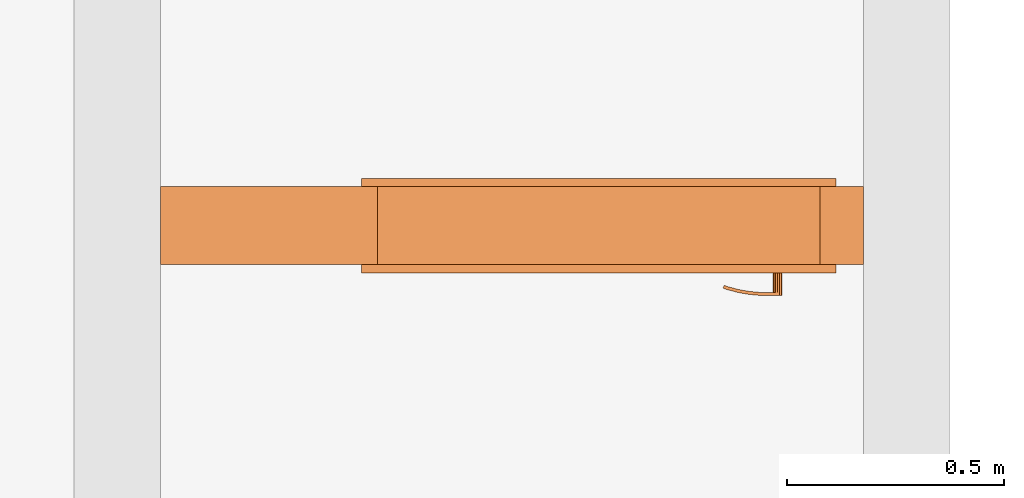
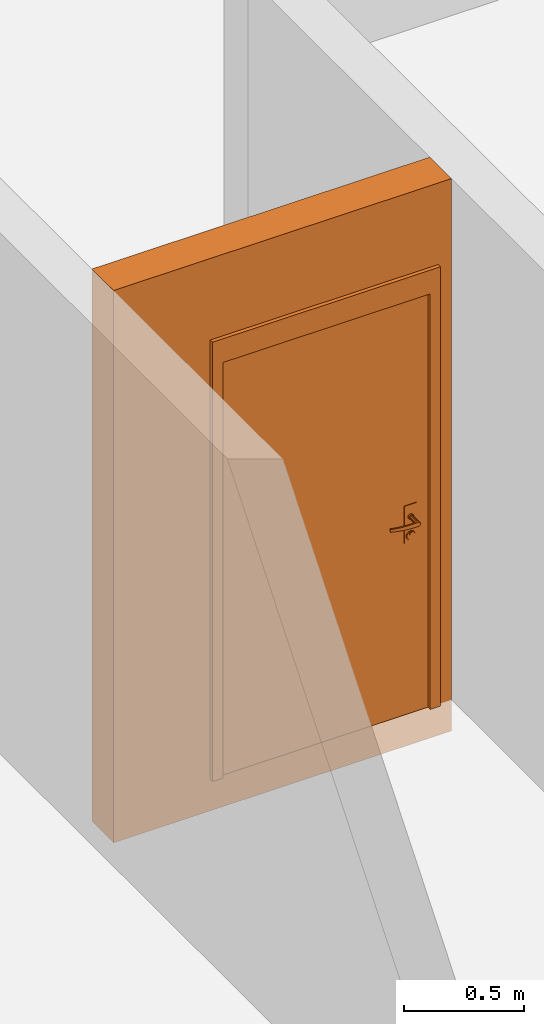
# One storey, part 22 of 67: 2 proxies, 1 opening.
"""IFC2X3 building model written with IfcOpenShell, lengths in millimetres."""

from ifc_helpers import new_model, entity, si_unit, converted_unit, derived_unit, money_unit, direction, frame, origin_with_axes, origin_2d_with_axis, place, context, subcontext, project, spatial, rectangle, extrude, open_shell, faceted_brep, surface_model, source, transform, mapped, material, type_object, element, fill, save


model = new_model("IFC2X3")

# Units and contexts
model_context = context("Model", 3, precision=0.01, world=origin_with_axes(), true_north=direction((0.34421633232, 0.938890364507)))
body_context = subcontext(model_context, "Body", "Model", "MODEL_VIEW")
ifc_project = project(units=[si_unit("LENGTHUNIT", "METRE", prefix="MILLI"), si_unit("AREAUNIT", "SQUARE_METRE"), si_unit("VOLUMEUNIT", "CUBIC_METRE"), converted_unit("PLANEANGLEUNIT", "DEGREE", entity("IfcPlaneAngleMeasure", 0.0174532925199), si_unit("PLANEANGLEUNIT", "RADIAN"), dimensions=[0, 0, 0, 0, 0, 0, 0]), si_unit("SOLIDANGLEUNIT", "STERADIAN"), money_unit("USD"), converted_unit("TIMEUNIT", "Year", entity("IfcTimeMeasure", 31556926.0), si_unit("TIMEUNIT", "SECOND"), dimensions=[0, 0, 1, 0, 0, 0, 0]), si_unit("MASSUNIT", "GRAM", prefix="KILO"), si_unit("THERMODYNAMICTEMPERATUREUNIT", "DEGREE_CELSIUS"), si_unit("LUMINOUSINTENSITYUNIT", "LUMEN"), si_unit("ENERGYUNIT", "JOULE", prefix="MEGA"), derived_unit("THERMALCONDUCTANCEUNIT", [(si_unit("POWERUNIT", "WATT"), 1), (si_unit("LENGTHUNIT", "METRE"), -1), (si_unit("THERMODYNAMICTEMPERATUREUNIT", "KELVIN"), -1)]), derived_unit("SPECIFICHEATCAPACITYUNIT", [(si_unit("ENERGYUNIT", "JOULE"), 1), (si_unit("MASSUNIT", "GRAM", prefix="KILO"), -1), (si_unit("THERMODYNAMICTEMPERATUREUNIT", "KELVIN"), -1)]), derived_unit("MASSDENSITYUNIT", [(si_unit("MASSUNIT", "GRAM", prefix="KILO"), 1), (si_unit("VOLUMEUNIT", "CUBIC_METRE"), -1)])], contexts=[model_context])

# Site, building, storey
site_placement = place(None, origin_with_axes())
site = spatial("IfcSite", under=ifc_project, at=site_placement, Name="USTRONIE MORSKIE", CompositionType="ELEMENT")
building_placement = place(site_placement, origin_with_axes())
building = spatial("IfcBuilding", under=site, at=building_placement, Name="Budynek", CompositionType="ELEMENT")
storey_placement = place(building_placement, frame((0.0, 0.0, 4000.0), z_axis=(0.0, 0.0, 1.0), x_axis=(1.0, 0.0, 0.0)))
storey = spatial("IfcBuildingStorey", under=building, at=storey_placement, Name="PIĘTRO 1", CompositionType="ELEMENT", Elevation=4000.0)

# Proxies, opening
ifc_material = material(Name="Bloczki silikatowe")
building_element_proxy_type_1 = type_object("IfcBuildingElementProxyType", Name="Bloczki silikatowe 180", PredefinedType="NOTDEFINED")
proxy_1_placement = place(storey_placement, frame((381137.920919, 731101.199132, -160.0), z_axis=(0.0, 0.0, 1.0), x_axis=(-1.0, 0.0, 0.0)))
proxy_1 = element("IfcBuildingElementProxy", 1, at=proxy_1_placement, inside=storey, type_object=building_element_proxy_type_1, material=ifc_material, Name="SW-02", context=body_context, shape_type="Brep", body=[
    faceted_brep([(1720.0, -90.0, 2800.0), (1720.0, 90.0, 2800.0), (100.0, 90.0, 2800.0), (100.0, -90.0, 2800.0), (1720.0, -90.0, 0.0), (1720.0, 90.0, 0.0), (100.0, 90.0, 0.0), (100.0, -90.0, 0.0)], [[[0, 1, 2, 3]], [[1, 0, 4, 5]], [[1, 5, 6, 2]], [[7, 3, 2, 6]], [[4, 0, 3, 7]], [[5, 4, 7, 6]]]),
])
opening_placement = place(proxy_1_placement, frame((710.0, 0.0, 160.0), z_axis=(0.0, 0.0, 1.0), x_axis=(1.0, 0.0, 0.0)))
opening = element("IfcOpeningElement", 2, at=opening_placement, cuts=proxy_1, Name="Dw.1", context=body_context, shape_type="SweptSolid", body=[
    extrude(rectangle(XDim=1020.0, YDim=2120.0, at=origin_2d_with_axis()), frame((0.0, -180.0, 1060.0), z_axis=(0.0, 1.0, 0.0), x_axis=(1.0, 0.0, 0.0)), (0.0, 0.0, 1.0), 540.0),
    extrude(rectangle(XDim=1094.0, YDim=2227.0, at=origin_2d_with_axis()), frame((0.0, -90.0, 1113.5), z_axis=(0.0, 1.0, 0.0), x_axis=(1.0, 0.0, 0.0)), (0.0, 0.0, -1.0), 180.0),
    extrude(rectangle(XDim=1094.0, YDim=2227.0, at=origin_2d_with_axis()), frame((0.0, 89.9999999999, 1113.5), z_axis=(0.0, -1.0, 0.0), x_axis=(1.0, 0.0, 0.0)), (0.0, 0.0, -1.0), 180.0),
])
building_element_proxy_type_2 = type_object("IfcBuildingElementProxyType", Name="Drzwi 23", PredefinedType="NOTDEFINED")
shared_shape = source(origin_with_axes(), body_context, "Body", "SurfaceModel", [
    faceted_brep([(-510.0, -115.0, 0.0), (-485.0, -115.0, 0.0), (-485.0, -180.0, 0.0), (-510.0, -180.0, 0.0), (-510.0, -115.0, 2120.0), (-485.0, -115.0, 2095.0), (-485.0, -180.0, 2095.0), (-510.0, -180.0, 2120.0)], [[[0, 1, 2, 3]], [[0, 4, 5, 1]], [[1, 5, 6, 2]], [[3, 2, 6, 7]], [[4, 0, 3, 7]], [[5, 4, 7, 6]]]),
    faceted_brep([(510.0, -115.0, 2120.0), (485.0, -115.0, 2095.0), (485.0, -180.0, 2095.0), (510.0, -180.0, 2120.0), (510.0, -115.0, 0.0), (485.0, -115.0, 0.0), (485.0, -180.0, 0.0), (510.0, -180.0, 0.0)], [[[0, 1, 2, 3]], [[0, 4, 5, 1]], [[1, 5, 6, 2]], [[3, 2, 6, 7]], [[4, 0, 3, 7]], [[5, 4, 7, 6]]]),
    faceted_brep([(-485.0, -115.0, 2095.0), (485.0, -115.0, 2095.0), (485.0, -180.0, 2095.0), (-485.0, -180.0, 2095.0), (-510.0, -115.0, 2120.0), (510.0, -115.0, 2120.0), (510.0, -180.0, 2120.0), (-510.0, -180.0, 2120.0)], [[[0, 1, 2, 3]], [[0, 4, 5, 1]], [[1, 5, 6, 2]], [[3, 2, 6, 7]], [[4, 0, 3, 7]], [[5, 4, 7, 6]]]),
    faceted_brep([(-547.0, -199.0, 0.0), (-547.0, -180.0, 0.0), (-497.0, -180.0, 0.0), (-497.0, -199.0, 0.0), (-547.0, -199.0, 2227.0), (-547.0, -180.0, 2227.0), (-497.0, -180.0, 2107.0), (-497.0, -199.0, 2107.0)], [[[0, 1, 2, 3]], [[4, 5, 1, 0]], [[1, 5, 6, 2]], [[3, 2, 6, 7]], [[0, 3, 7, 4]], [[7, 6, 5, 4]]]),
    faceted_brep([(547.0, -199.0, 2227.0), (547.0, -180.0, 2227.0), (497.0, -180.0, 2107.0), (497.0, -199.0, 2107.0), (547.0, -199.0, 0.0), (547.0, -180.0, 0.0), (497.0, -180.0, 0.0), (497.0, -199.0, 0.0)], [[[0, 1, 2, 3]], [[4, 5, 1, 0]], [[1, 5, 6, 2]], [[3, 2, 6, 7]], [[0, 3, 7, 4]], [[7, 6, 5, 4]]]),
    faceted_brep([(-547.0, -199.0, 2227.0), (-547.0, -180.0, 2227.0), (-497.0, -180.0, 2107.0), (-497.0, -199.0, 2107.0), (547.0, -199.0, 2227.0), (547.0, -180.0, 2227.0), (497.0, -180.0, 2107.0), (497.0, -199.0, 2107.0)], [[[0, 1, 2, 3]], [[4, 5, 1, 0]], [[1, 5, 6, 2]], [[3, 2, 6, 7]], [[0, 3, 7, 4]], [[7, 6, 5, 4]]]),
    faceted_brep([(-547.0, 19.0, 0.0), (-497.0, 19.0, 0.0), (-497.0, 0.0, 0.0), (-547.0, 0.0, 0.0), (-547.0, 19.0, 2227.0), (-497.0, 19.0, 2107.0), (-497.0, 0.0, 2107.0), (-547.0, 0.0, 2227.0)], [[[0, 1, 2, 3]], [[0, 4, 5, 1]], [[1, 5, 6, 2]], [[3, 2, 6, 7]], [[4, 0, 3, 7]], [[5, 4, 7, 6]]]),
    faceted_brep([(547.0, 19.0, 2227.0), (497.0, 19.0, 2107.0), (497.0, 0.0, 2107.0), (547.0, 0.0, 2227.0), (547.0, 19.0, 0.0), (497.0, 19.0, 0.0), (497.0, 0.0, 0.0), (547.0, 0.0, 0.0)], [[[0, 1, 2, 3]], [[0, 4, 5, 1]], [[1, 5, 6, 2]], [[3, 2, 6, 7]], [[4, 0, 3, 7]], [[5, 4, 7, 6]]]),
    faceted_brep([(-547.0, 19.0, 2227.0), (-497.0, 19.0, 2107.0), (-497.0, 0.0, 2107.0), (-547.0, 0.0, 2227.0), (547.0, 19.0, 2227.0), (497.0, 19.0, 2107.0), (497.0, 0.0, 2107.0), (547.0, 0.0, 2227.0)], [[[0, 1, 2, 3]], [[0, 4, 5, 1]], [[1, 5, 6, 2]], [[3, 2, 6, 7]], [[4, 0, 3, 7]], [[5, 4, 7, 6]]]),
    faceted_brep([(-450.0, -40.0, 0.0), (-450.0, -40.0, 2050.0), (-450.0, -115.0, 2050.0), (-450.0, -115.0, 0.0), (-462.0, -40.0, 2050.0), (-462.0, -40.0, 0.0), (-462.0, 0.0, 2050.0), (-510.0, 0.0, 2050.0), (-510.0, -115.0, 2050.0), (-510.0, -115.0, 0.0), (-510.0, 0.0, 0.0), (-462.0, 0.0, 0.0)], [[[0, 1, 2, 3]], [[4, 1, 0, 5]], [[4, 6, 7, 8, 2, 1]], [[3, 2, 8, 9]], [[5, 0, 3, 9, 10, 11]], [[6, 4, 5, 11]], [[6, 11, 10, 7]], [[10, 9, 8, 7]]]),
    faceted_brep([(462.0, -40.0, 2050.0), (450.0, -40.0, 2050.0), (450.0, -115.0, 2050.0), (510.0, -115.0, 2050.0), (510.0, 0.0, 2050.0), (462.0, 0.0, 2050.0), (462.0, -40.0, 0.0), (450.0, -40.0, 0.0), (450.0, -115.0, 0.0), (510.0, -115.0, 0.0), (510.0, 0.0, 0.0), (462.0, 0.0, 0.0)], [[[0, 1, 2, 3, 4, 5]], [[1, 0, 6, 7]], [[1, 7, 8, 2]], [[3, 2, 8, 9]], [[4, 3, 9, 10]], [[11, 5, 4, 10]], [[0, 5, 11, 6]], [[6, 11, 10, 9, 8, 7]]]),
    faceted_brep([(-462.0, 0.0, 2062.0), (-462.0, 0.0, 2050.0), (-510.0, 0.0, 2050.0), (-510.0, 0.0, 2120.0), (510.0, 0.0, 2120.0), (510.0, 0.0, 2050.0), (462.0, 0.0, 2050.0), (462.0, 0.0, 2062.0), (-462.0, -40.0, 2062.0), (-462.0, -40.0, 2050.0), (-450.0, -40.0, 2050.0), (-450.0, -115.0, 2050.0), (-510.0, -115.0, 2050.0), (-510.0, -115.0, 2120.0), (510.0, -115.0, 2120.0), (510.0, -115.0, 2050.0), (462.0, -40.0, 2050.0), (450.0, -115.0, 2050.0), (450.0, -40.0, 2050.0), (462.0, -40.0, 2062.0)], [[[0, 1, 2, 3, 4, 5, 6, 7]], [[1, 0, 8, 9]], [[9, 10, 11, 12, 2, 1]], [[2, 12, 13, 3]], [[3, 13, 14, 4]], [[4, 14, 15, 5]], [[16, 6, 5, 15, 17, 18]], [[7, 6, 16, 19]], [[0, 7, 19, 8]], [[16, 18, 10, 9, 8, 19]], [[10, 18, 17, 11]], [[17, 15, 14, 13, 12, 11]]]),
    faceted_brep([(-440.5, -40.0, 1060.0), (-440.5, -43.0, 1060.0), (-383.5, -43.0, 1060.0), (-383.5, -40.0, 1060.0), (-440.5, -40.0, 870.0), (-440.5, -43.0, 870.0), (-383.5, -43.0, 870.0), (-383.5, -40.0, 870.0)], [[[0, 1, 2, 3]], [[4, 5, 1, 0]], [[1, 5, 6, 2]], [[3, 2, 6, 7]], [[0, 3, 7, 4]], [[7, 6, 5, 4]]]),
    faceted_brep([(-412.0, -104.0, 990.0), (-412.0, -111.0, 990.0), (-417.0, -111.0, 991.339745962), (-417.0, -104.0, 991.339745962), (-387.0, -104.0, 990.0), (-387.0, -111.0, 990.0), (-387.0, -111.0, 1010.0), (-412.0, -111.0, 1010.0), (-417.0, -111.0, 1008.66025404), (-420.660254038, -111.0, 1005.0), (-422.0, -111.0, 1000.0), (-420.660254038, -111.0, 995.0), (-420.660254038, -104.0, 995.0), (-422.0, -104.0, 1000.0), (-420.660254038, -104.0, 1005.0), (-417.0, -104.0, 1008.66025404), (-412.0, -104.0, 1010.0), (-387.0, -104.0, 1010.0)], [[[0, 1, 2, 3]], [[4, 5, 1, 0]], [[1, 5, 6, 7, 8, 9, 10, 11, 2]], [[3, 2, 11, 12]], [[0, 3, 12, 13, 14, 15, 16, 17, 4]], [[17, 6, 5, 4]], [[16, 7, 6, 17]], [[15, 8, 7, 16]], [[14, 9, 8, 15]], [[13, 10, 9, 14]], [[12, 11, 10, 13]]]),
    surface_model("IfcShellBasedSurfaceModel", [(-387.0, -104.0, 1010.0), (-373.596090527, -111.0, 1009.60730092), (-373.901717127, -104.0, 1009.60730092), (-387.0, -111.0, 1010.0), (-346.890283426, -108.663544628, 1008.82190275), (-373.901717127, -104.0, 990.392699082), (-387.0, -104.0, 990.0), (-387.0, -111.0, 990.0), (-373.596090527, -111.0, 990.392699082), (-346.890283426, -108.663544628, 991.178097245), (-347.804837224, -101.716818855, 1008.82190275), (-347.804837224, -101.716818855, 991.178097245), (-320.489735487, -104.008415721, 991.963495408), (-320.489735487, -104.008415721, 1008.03650459), (-322.006256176, -97.1678329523, 1008.03650459), (-322.006256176, -97.1678329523, 991.963495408), (-294.59537082, -97.0700416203, 992.748893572), (-294.59537082, -97.0700416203, 1007.25110643), (-296.702316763, -90.3876628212, 1007.25110643), (-296.702316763, -90.3876628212, 992.748893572), (-286.538795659, -94.1376880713, 993.0), (-286.538795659, -94.1376880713, 1007.0), (-288.829442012, -87.5221707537, 1007.0), (-288.829442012, -87.5221707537, 993.0)], [open_shell([[[0, 1, 2]], [[0, 3, 1]], [[2, 1, 4]], [[0, 2, 5, 6]], [[3, 7, 8, 1]], [[1, 8, 9, 4]], [[2, 4, 10]], [[2, 10, 11, 5]], [[5, 7, 6]], [[5, 8, 7]], [[11, 9, 8]], [[4, 9, 12, 13]], [[10, 4, 13]], [[10, 14, 15, 11]], [[11, 8, 5]], [[15, 9, 11]], [[15, 12, 9]], [[13, 12, 16, 17]], [[10, 13, 14]], [[14, 18, 19, 15]], [[19, 12, 15]], [[19, 16, 12]], [[17, 16, 20, 21]], [[14, 13, 17]], [[14, 17, 18]], [[18, 22, 23, 19]], [[23, 16, 19]], [[23, 20, 16]], [[22, 21, 20, 23]], [[18, 17, 21]], [[18, 21, 22]]])]),
    faceted_brep([(-401.607695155, -53.0, 994.0), (-400.741669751, -43.0, 993.5), (-399.0, -43.0, 1000.0), (-400.0, -53.0, 1000.0), (-406.0, -53.0, 989.607695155), (-405.5, -43.0, 988.741669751), (-412.0, -43.0, 987.0), (-418.5, -43.0, 988.741669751), (-423.258330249, -43.0, 993.5), (-425.0, -43.0, 1000.0), (-423.258330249, -43.0, 1006.5), (-418.5, -43.0, 1011.25833025), (-412.0, -43.0, 1013.0), (-405.5, -43.0, 1011.25833025), (-400.741669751, -43.0, 1006.5), (-401.607695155, -53.0, 1006.0), (-406.0, -53.0, 1010.39230485), (-412.0, -53.0, 1012.0), (-418.0, -53.0, 1010.39230485), (-422.392304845, -53.0, 1006.0), (-424.0, -53.0, 1000.0), (-422.392304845, -53.0, 994.0), (-418.0, -53.0, 989.607695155), (-412.0, -53.0, 988.0)], [[[0, 1, 2, 3]], [[4, 5, 1, 0]], [[2, 1, 5, 6, 7, 8, 9, 10, 11, 12, 13, 14]], [[3, 2, 14, 15]], [[3, 15, 16, 17, 18, 19, 20, 21, 22, 23, 4, 0]], [[23, 6, 5, 4]], [[22, 7, 6, 23]], [[21, 8, 7, 22]], [[20, 9, 8, 21]], [[19, 10, 9, 20]], [[18, 11, 10, 19]], [[17, 12, 11, 18]], [[16, 13, 12, 17]], [[15, 14, 13, 16]]]),
    faceted_brep([(-394.679491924, -47.0, 895.0), (-392.947441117, -43.0, 894.0), (-390.0, -43.0, 905.0), (-392.0, -47.0, 905.0), (-402.0, -47.0, 887.679491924), (-401.0, -43.0, 885.947441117), (-412.0, -43.0, 883.0), (-423.0, -43.0, 885.947441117), (-431.052558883, -43.0, 894.0), (-434.0, -43.0, 905.0), (-431.052558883, -43.0, 916.0), (-423.0, -43.0, 924.052558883), (-412.0, -43.0, 927.0), (-401.0, -43.0, 924.052558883), (-392.947441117, -43.0, 916.0), (-394.679491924, -47.0, 915.0), (-402.0, -47.0, 922.320508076), (-412.0, -47.0, 925.0), (-422.0, -47.0, 922.320508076), (-429.320508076, -47.0, 915.0), (-432.0, -47.0, 905.0), (-429.320508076, -47.0, 895.0), (-422.0, -47.0, 887.679491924), (-412.0, -47.0, 885.0)], [[[0, 1, 2, 3]], [[4, 5, 1, 0]], [[2, 1, 5, 6, 7, 8, 9, 10, 11, 12, 13, 14]], [[3, 2, 14, 15]], [[3, 15, 16, 17, 18, 19, 20, 21, 22, 23, 4, 0]], [[23, 6, 5, 4]], [[22, 7, 6, 23]], [[21, 8, 7, 22]], [[20, 9, 8, 21]], [[19, 10, 9, 20]], [[18, 11, 10, 19]], [[17, 12, 11, 18]], [[16, 13, 12, 17]], [[15, 14, 13, 16]]]),
    faceted_brep([(-407.050252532, -49.0, 909.050252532), (-406.343145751, -47.0, 908.343145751), (-404.0, -47.0, 914.0), (-405.0, -49.0, 914.0), (-412.0, -49.0, 907.0), (-412.0, -47.0, 906.0), (-417.656854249, -47.0, 908.343145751), (-420.0, -47.0, 914.0), (-417.656854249, -47.0, 919.656854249), (-412.0, -47.0, 922.0), (-406.343145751, -47.0, 919.656854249), (-407.050252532, -49.0, 918.949747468), (-412.0, -49.0, 921.0), (-416.949747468, -49.0, 918.949747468), (-419.0, -49.0, 914.0), (-416.949747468, -49.0, 909.050252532)], [[[0, 1, 2, 3]], [[4, 5, 1, 0]], [[2, 1, 5, 6, 7, 8, 9, 10]], [[3, 2, 10, 11]], [[3, 11, 12, 13, 14, 15, 4, 0]], [[15, 6, 5, 4]], [[14, 7, 6, 15]], [[13, 8, 7, 14]], [[12, 9, 8, 13]], [[11, 10, 9, 12]]]),
    faceted_brep([(-412.0, -53.0, 1010.0), (-412.0, -104.0, 1010.0), (-407.0, -104.0, 1008.66025404), (-407.0, -53.0, 1008.66025404), (-417.0, -53.0, 1008.66025404), (-417.0, -104.0, 1008.66025404), (-420.660254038, -104.0, 1005.0), (-422.0, -104.0, 1000.0), (-420.660254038, -104.0, 995.0), (-417.0, -104.0, 991.339745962), (-412.0, -104.0, 990.0), (-407.0, -104.0, 991.339745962), (-403.339745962, -104.0, 995.0), (-402.0, -104.0, 1000.0), (-403.339745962, -104.0, 1005.0), (-403.339745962, -53.0, 1005.0), (-402.0, -53.0, 1000.0), (-403.339745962, -53.0, 995.0), (-407.0, -53.0, 991.339745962), (-412.0, -53.0, 990.0), (-417.0, -53.0, 991.339745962), (-420.660254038, -53.0, 995.0), (-422.0, -53.0, 1000.0), (-420.660254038, -53.0, 1005.0)], [[[0, 1, 2, 3]], [[4, 5, 1, 0]], [[1, 5, 6, 7, 8, 9, 10, 11, 12, 13, 14, 2]], [[3, 2, 14, 15]], [[0, 3, 15, 16, 17, 18, 19, 20, 21, 22, 23, 4]], [[23, 6, 5, 4]], [[22, 7, 6, 23]], [[21, 8, 7, 22]], [[20, 9, 8, 21]], [[19, 10, 9, 20]], [[18, 11, 10, 19]], [[17, 12, 11, 18]], [[16, 13, 12, 17]], [[15, 14, 13, 16]]]),
    faceted_brep([(-440.5, 0.0, 1060.0), (-383.5, 0.0, 1060.0), (-383.5, 3.0, 1060.0), (-440.5, 3.0, 1060.0), (-440.5, 0.0, 870.0), (-383.5, 0.0, 870.0), (-383.5, 3.0, 870.0), (-440.5, 3.0, 870.0)], [[[0, 1, 2, 3]], [[0, 4, 5, 1]], [[1, 5, 6, 2]], [[3, 2, 6, 7]], [[4, 0, 3, 7]], [[5, 4, 7, 6]]]),
    faceted_brep([(-412.0, 64.0, 990.0), (-417.0, 64.0, 991.339745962), (-417.0, 71.0, 991.339745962), (-412.0, 71.0, 990.0), (-387.0, 64.0, 990.0), (-387.0, 64.0, 1010.0), (-412.0, 64.0, 1010.0), (-417.0, 64.0, 1008.66025404), (-420.660254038, 64.0, 1005.0), (-422.0, 64.0, 1000.0), (-420.660254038, 64.0, 995.0), (-420.660254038, 71.0, 995.0), (-422.0, 71.0, 1000.0), (-420.660254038, 71.0, 1005.0), (-417.0, 71.0, 1008.66025404), (-412.0, 71.0, 1010.0), (-387.0, 71.0, 1010.0), (-387.0, 71.0, 990.0)], [[[0, 1, 2, 3]], [[0, 4, 5, 6, 7, 8, 9, 10, 1]], [[1, 10, 11, 2]], [[3, 2, 11, 12, 13, 14, 15, 16, 17]], [[4, 0, 3, 17]], [[5, 4, 17, 16]], [[6, 5, 16, 15]], [[7, 6, 15, 14]], [[8, 7, 14, 13]], [[9, 8, 13, 12]], [[10, 9, 12, 11]]]),
    surface_model("IfcShellBasedSurfaceModel", [(-387.0, 64.0, 1010.0), (-373.901717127, 64.0, 1009.60730092), (-373.596090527, 71.0, 1009.60730092), (-387.0, 64.0, 990.0), (-373.901717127, 64.0, 990.392699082), (-346.890283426, 68.6635446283, 1008.82190275), (-387.0, 71.0, 1010.0), (-387.0, 71.0, 990.0), (-347.804837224, 61.716818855, 991.178097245), (-347.804837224, 61.716818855, 1008.82190275), (-346.890283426, 68.6635446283, 991.178097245), (-373.596090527, 71.0, 990.392699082), (-322.006256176, 57.1678329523, 991.963495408), (-322.006256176, 57.1678329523, 1008.03650459), (-320.489735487, 64.0084157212, 1008.03650459), (-320.489735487, 64.0084157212, 991.963495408), (-296.702316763, 50.3876628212, 992.748893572), (-296.702316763, 50.3876628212, 1007.25110643), (-294.59537082, 57.0700416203, 1007.25110643), (-294.59537082, 57.0700416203, 992.748893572), (-288.829442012, 47.5221707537, 993.0), (-288.829442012, 47.5221707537, 1007.0), (-286.538795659, 54.1376880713, 1007.0), (-286.538795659, 54.1376880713, 993.0)], [open_shell([[[0, 1, 2]], [[0, 3, 4, 1]], [[1, 5, 2]], [[0, 2, 6]], [[4, 3, 7]], [[1, 4, 8, 9]], [[1, 9, 5]], [[2, 5, 10, 11]], [[6, 2, 11, 7]], [[4, 7, 11]], [[8, 4, 11]], [[9, 8, 12, 13]], [[9, 14, 5]], [[5, 14, 15, 10]], [[8, 11, 10]], [[12, 8, 10]], [[13, 12, 16, 17]], [[9, 13, 14]], [[14, 18, 19, 15]], [[12, 10, 15]], [[16, 12, 15]], [[17, 16, 20, 21]], [[13, 17, 18]], [[13, 18, 14]], [[18, 22, 23, 19]], [[16, 15, 19]], [[20, 16, 19]], [[21, 20, 23, 22]], [[17, 21, 22]], [[17, 22, 18]], [[20, 19, 23]]])]),
    faceted_brep([(-401.607695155, 13.0, 994.0), (-400.0, 13.0, 1000.0), (-399.0, 3.0, 1000.0), (-400.741669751, 3.0, 993.5), (-406.0, 13.0, 989.607695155), (-412.0, 13.0, 988.0), (-418.0, 13.0, 989.607695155), (-422.392304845, 13.0, 994.0), (-424.0, 13.0, 1000.0), (-422.392304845, 13.0, 1006.0), (-418.0, 13.0, 1010.39230485), (-412.0, 13.0, 1012.0), (-406.0, 13.0, 1010.39230485), (-401.607695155, 13.0, 1006.0), (-400.741669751, 3.0, 1006.5), (-405.5, 3.0, 1011.25833025), (-412.0, 3.0, 1013.0), (-418.5, 3.0, 1011.25833025), (-423.258330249, 3.0, 1006.5), (-425.0, 3.0, 1000.0), (-423.258330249, 3.0, 993.5), (-418.5, 3.0, 988.741669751), (-412.0, 3.0, 987.0), (-405.5, 3.0, 988.741669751)], [[[0, 1, 2, 3]], [[1, 0, 4, 5, 6, 7, 8, 9, 10, 11, 12, 13]], [[1, 13, 14, 2]], [[2, 14, 15, 16, 17, 18, 19, 20, 21, 22, 23, 3]], [[4, 0, 3, 23]], [[5, 4, 23, 22]], [[6, 5, 22, 21]], [[7, 6, 21, 20]], [[8, 7, 20, 19]], [[9, 8, 19, 18]], [[10, 9, 18, 17]], [[11, 10, 17, 16]], [[12, 11, 16, 15]], [[13, 12, 15, 14]]]),
    faceted_brep([(-394.679491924, 7.0, 895.0), (-392.0, 7.0, 905.0), (-390.0, 3.0, 905.0), (-392.947441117, 3.0, 894.0), (-402.0, 7.0, 887.679491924), (-412.0, 7.0, 885.0), (-422.0, 7.0, 887.679491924), (-429.320508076, 7.0, 895.0), (-432.0, 7.0, 905.0), (-429.320508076, 7.0, 915.0), (-422.0, 7.0, 922.320508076), (-412.0, 7.0, 925.0), (-402.0, 7.0, 922.320508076), (-394.679491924, 7.0, 915.0), (-392.947441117, 3.0, 916.0), (-401.0, 3.0, 924.052558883), (-412.0, 3.0, 927.0), (-423.0, 3.0, 924.052558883), (-431.052558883, 3.0, 916.0), (-434.0, 3.0, 905.0), (-431.052558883, 3.0, 894.0), (-423.0, 3.0, 885.947441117), (-412.0, 3.0, 883.0), (-401.0, 3.0, 885.947441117)], [[[0, 1, 2, 3]], [[1, 0, 4, 5, 6, 7, 8, 9, 10, 11, 12, 13]], [[1, 13, 14, 2]], [[2, 14, 15, 16, 17, 18, 19, 20, 21, 22, 23, 3]], [[4, 0, 3, 23]], [[5, 4, 23, 22]], [[6, 5, 22, 21]], [[7, 6, 21, 20]], [[8, 7, 20, 19]], [[9, 8, 19, 18]], [[10, 9, 18, 17]], [[11, 10, 17, 16]], [[12, 11, 16, 15]], [[13, 12, 15, 14]]]),
    faceted_brep([(-407.050252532, 9.0, 909.050252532), (-405.0, 9.0, 914.0), (-404.0, 7.0, 914.0), (-406.343145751, 7.0, 908.343145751), (-412.0, 9.0, 907.0), (-416.949747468, 9.0, 909.050252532), (-419.0, 9.0, 914.0), (-416.949747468, 9.0, 918.949747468), (-412.0, 9.0, 921.0), (-407.050252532, 9.0, 918.949747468), (-406.343145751, 7.0, 919.656854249), (-412.0, 7.0, 922.0), (-417.656854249, 7.0, 919.656854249), (-420.0, 7.0, 914.0), (-417.656854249, 7.0, 908.343145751), (-412.0, 7.0, 906.0)], [[[0, 1, 2, 3]], [[1, 0, 4, 5, 6, 7, 8, 9]], [[1, 9, 10, 2]], [[2, 10, 11, 12, 13, 14, 15, 3]], [[4, 0, 3, 15]], [[5, 4, 15, 14]], [[6, 5, 14, 13]], [[7, 6, 13, 12]], [[8, 7, 12, 11]], [[9, 8, 11, 10]]]),
    faceted_brep([(-412.0, 13.0, 1010.0), (-407.0, 13.0, 1008.66025404), (-407.0, 64.0, 1008.66025404), (-412.0, 64.0, 1010.0), (-417.0, 13.0, 1008.66025404), (-420.660254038, 13.0, 1005.0), (-422.0, 13.0, 1000.0), (-420.660254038, 13.0, 995.0), (-417.0, 13.0, 991.339745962), (-412.0, 13.0, 990.0), (-407.0, 13.0, 991.339745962), (-403.339745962, 13.0, 995.0), (-402.0, 13.0, 1000.0), (-403.339745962, 13.0, 1005.0), (-403.339745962, 64.0, 1005.0), (-402.0, 64.0, 1000.0), (-403.339745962, 64.0, 995.0), (-407.0, 64.0, 991.339745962), (-412.0, 64.0, 990.0), (-417.0, 64.0, 991.339745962), (-420.660254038, 64.0, 995.0), (-422.0, 64.0, 1000.0), (-420.660254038, 64.0, 1005.0), (-417.0, 64.0, 1008.66025404)], [[[0, 1, 2, 3]], [[0, 4, 5, 6, 7, 8, 9, 10, 11, 12, 13, 1]], [[1, 13, 14, 2]], [[3, 2, 14, 15, 16, 17, 18, 19, 20, 21, 22, 23]], [[4, 0, 3, 23]], [[5, 4, 23, 22]], [[6, 5, 22, 21]], [[7, 6, 21, 20]], [[8, 7, 20, 19]], [[9, 8, 19, 18]], [[10, 9, 18, 17]], [[11, 10, 17, 16]], [[12, 11, 16, 15]], [[13, 12, 15, 14]]]),
    faceted_brep([(462.0, 0.0, 0.0), (462.0, -40.0, 0.0), (-462.0, -40.0, 0.0), (-462.0, 0.0, 0.0), (462.0, 0.0, 2062.0), (462.0, -40.0, 2062.0), (-462.0, -40.0, 2062.0), (-462.0, 0.0, 2062.0)], [[[0, 1, 2, 3]], [[4, 5, 1, 0]], [[1, 5, 6, 2]], [[3, 2, 6, 7]], [[0, 3, 7, 4]], [[7, 6, 5, 4]]]),
])
proxy_2_placement = place(opening_placement, frame((-450.0, 0.0, 0.0), z_axis=(0.0, 0.0, 1.0), x_axis=(1.0, 0.0, 0.0)))
proxy_2 = element("IfcBuildingElementProxy", 3, at=proxy_2_placement, inside=storey, type_object=building_element_proxy_type_2, Name="Dw.1", context=body_context, shape_type="MappedRepresentation", body=[
    mapped(shared_shape, transform((450.0, 89.9999999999, 0.0))),
])
fill(opening, proxy_2)

save(model, "model.ifc")
